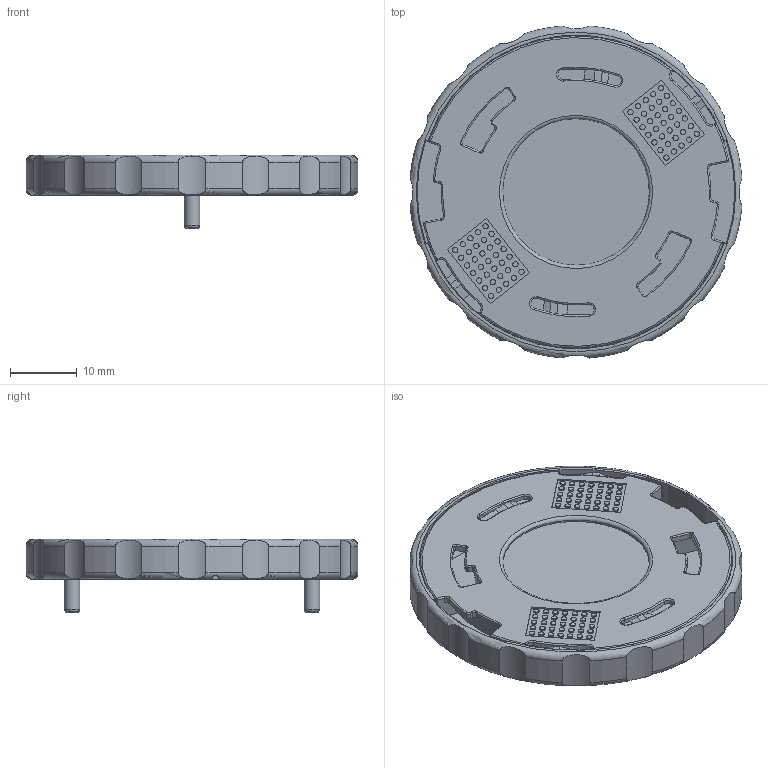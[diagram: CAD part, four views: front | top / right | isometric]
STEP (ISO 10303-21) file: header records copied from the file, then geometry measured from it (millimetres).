
FILE_DESCRIPTION(/* description */ ('Unknown'),/* implementation_level */ '2;1');
FILE_NAME(/* name */ '023-702-03',/* time_stamp */ '2024-04-22T08:47:39+02:00',/* author */ ('Unknown'),/* organization */ ('Unknown'),/* preprocessor_version */ 'ST-DEVELOPER v16.7',/* originating_system */ 'Solid Edge',/* authorisation */ 'Unknown');
FILE_SCHEMA (('AUTOMOTIVE_DESIGN {1 0 10303 214 3 1 1}'));
Length unit declared in the file: millimetre
Products named in the file (1): 023-702-03
Bounding box: 49.83 x 49.83 x 11 mm (x, y, z)
Volume: 5985.2 mm3; surface area: 11302.4 mm2
Topology: 2 solids, 2 shells, 1335 faces, 3488 edges, 2272 vertices
Faces by surface type: plane 848, cylinder 279, torus 85, cone 79, bspline 36, sphere 8
Full cylindrical faces by diameter (mm): 0.519 x2, 0.8 x70, 1.2 x2, 2.35 x4, 2.4 x2, 3.95 x2, 4 x2, 4.728 x2, 22 x1, 25.5 x1
Entity records: 41768 total; most frequent: CARTESIAN_POINT 9346, ORIENTED_EDGE 6676, DIRECTION 6582, EDGE_CURVE 3338, AXIS2_PLACEMENT_3D 2269, VERTEX_POINT 2250, LINE 2044, VECTOR 2044
